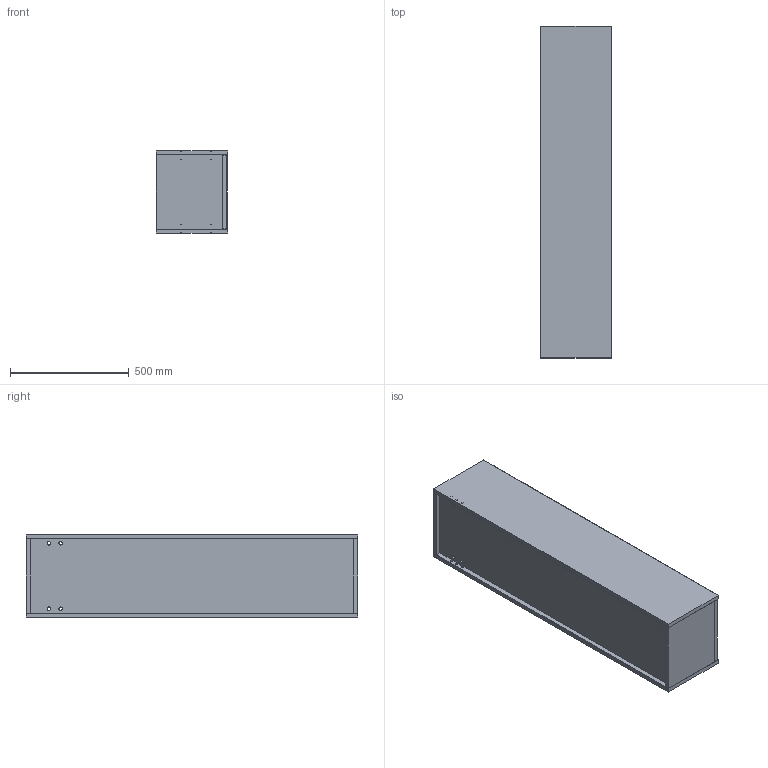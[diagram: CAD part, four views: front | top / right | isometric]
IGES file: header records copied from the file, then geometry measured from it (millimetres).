
Global section: file name: Lignum Boy Dolabı 3D,; native system: Autodesk Inventor 2024; preprocessor: unknown; author: pc19; date: 20240621.151545; units: millimetre
Bounding box: 300 x 1400 x 350 mm (x, y, z)
Volume: 36480316.2 mm3; surface area: 4612465.9 mm2
Topology: 22 solids, 24 shells, 1112 faces, 3078 edges, 2088 vertices
Faces by surface type: bspline 1112
